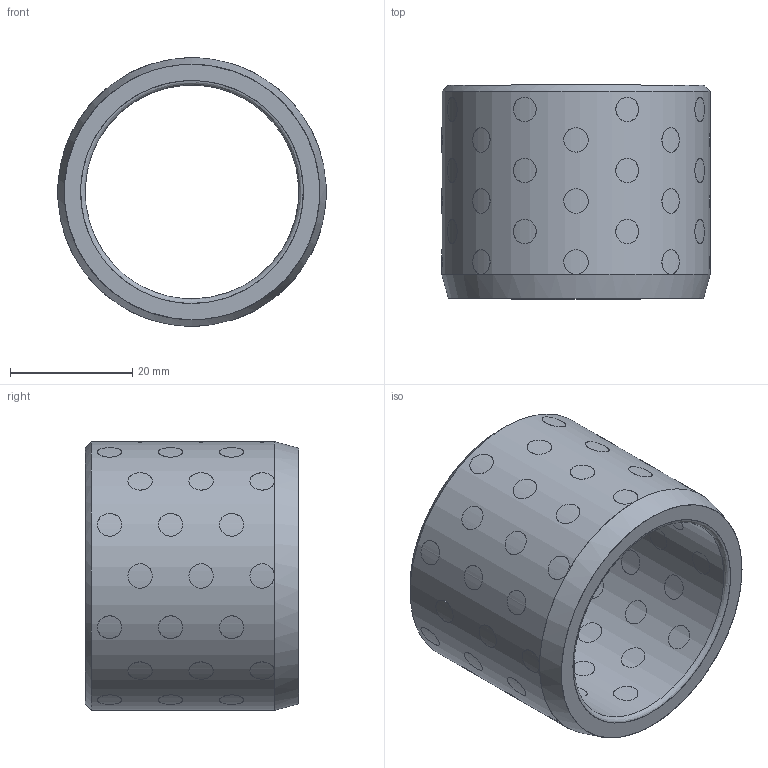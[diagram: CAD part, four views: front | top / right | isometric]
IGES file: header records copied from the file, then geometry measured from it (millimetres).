
Start section: Missler Software BP 521, 31674 Labege Cedex, France Tel   : +33 (0)5 61 00 03 00 Fax   : +33 (0)5 61 00 03 03 Email : sup.topsolid@topsolid.com
Global section: file name: D:\Cuma\18 03 2010\D30.04-2\D30.04_353544.igs; native system: TopSolid v605250 Missler Software; preprocessor: IGES preprocessor v100000; date: 030126.005905; units: millimetre
Bounding box: 44 x 35 x 44 mm (x, y, z)
Surface area: 14118.7 mm2 (no closed solid volume)
Topology: 0 solids, 0 shells, 176 faces, 3621 edges, 3504 vertices
Faces by surface type: bspline 176
